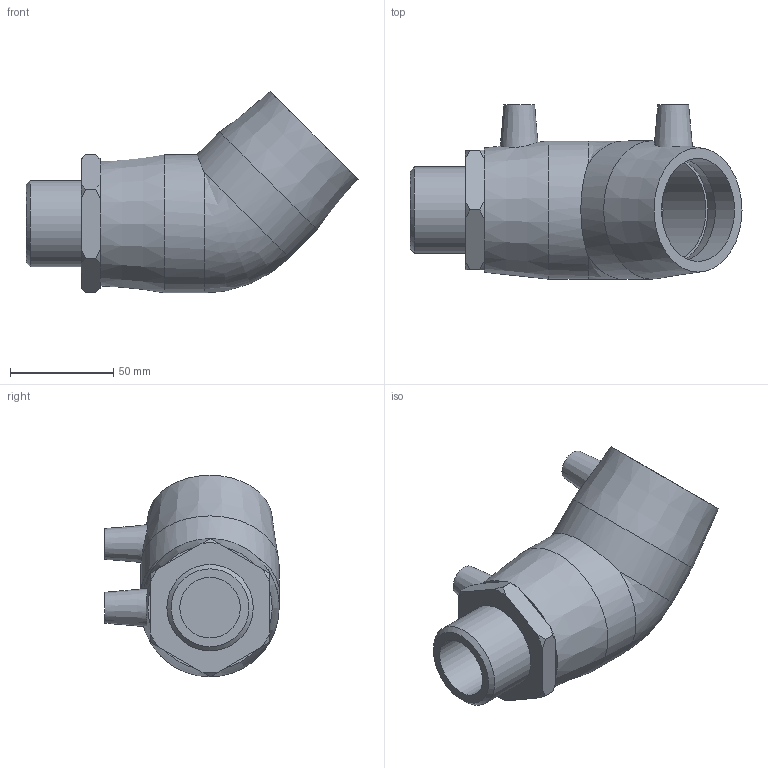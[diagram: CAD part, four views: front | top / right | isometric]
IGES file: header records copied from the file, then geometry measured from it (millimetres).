
Global section: file name: 492604050013.ipt; native system: Autodesk Inventor 2015; preprocessor: unknown; author: KIM; date: 20200202.122424; units: millimetre
Bounding box: 161 x 84.5 x 97.77 mm (x, y, z)
Volume: 291730.3 mm3; surface area: 61330 mm2
Topology: 1 solids, 2 shells, 59 faces, 142 edges, 97 vertices
Faces by surface type: plane 24, cone 17, revolution 10, cylinder 7, bspline 1
Full cylindrical faces by diameter (mm): 4 x2, 41.91 x1, 50 x2, 67 x2
